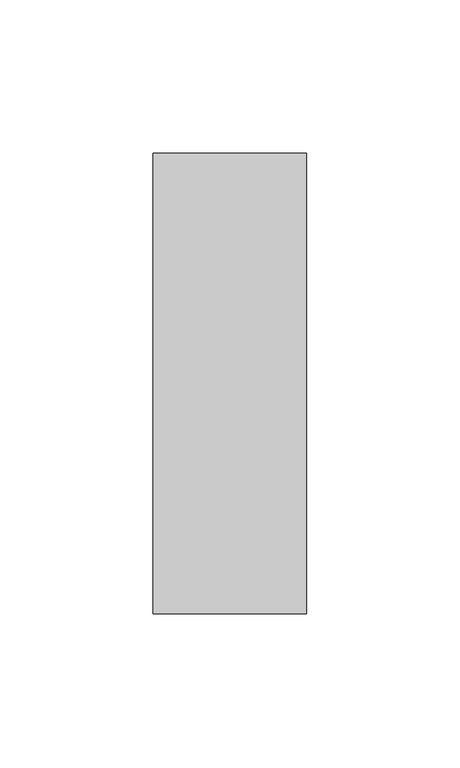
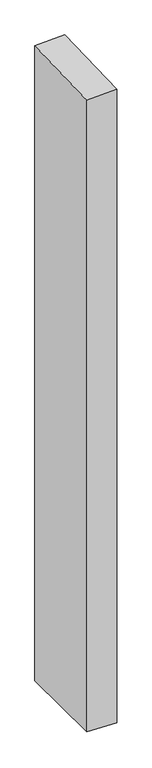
"""IFC4 building model written with IfcOpenShell, lengths in millimetres: member geometry, Прямоугольный импост : 50 x 150 мм."""

from ifc_helpers import new_model, si_unit, origin, place, context, project, spatial, faceted_brep, source, transform, mapped, element, save


def member_48483ac7(model_context):
    return source(origin(), model_context, "Body", "Brep", [
        faceted_brep([(-25.0, 75.0, 1.7276903), (25.0, 75.0, 3.3669425), (25.0, 75.0, -1116.8615889), (-25.0, 75.0, -1115.3753386), (-25.0, -75.0, -3.3669425), (-25.0, -75.0, -1114.6843285), (25.0, -75.0, -1.7276903), (25.0, -75.0, -1116.1705788)], [[[0, 1, 2, 3]], [[4, 0, 3, 5]], [[6, 4, 5, 7]], [[1, 6, 7, 2]], [[1, 0, 4, 6]], [[2, 7, 5, 3]]]),
    ])


if __name__ == "__main__":
    model = new_model("IFC4")
    model_context = context("Model", 3, world=origin())
    ifc_project = project(units=[si_unit("LENGTHUNIT", "METRE", prefix="MILLI")], contexts=[model_context])
    site = spatial("IfcSite", under=ifc_project)
    building = spatial("IfcBuilding", under=site)
    placement = place(None, origin())
    member_shape = member_48483ac7(model_context)
    element("IfcMember", 1, ObjectType="Прямоугольный импост : 50 x 150 мм", at=placement, inside=building, context=model_context, shape_type="MappedRepresentation", body=[
        mapped(member_shape, transform((0.0, 0.0, 0.0), x_axis=(1.0, 0.0, 0.0), y_axis=(0.0, 1.0, 0.0), z_axis=(0.0, 0.0, 1.0))),
    ])
    save(model, "model.ifc")
